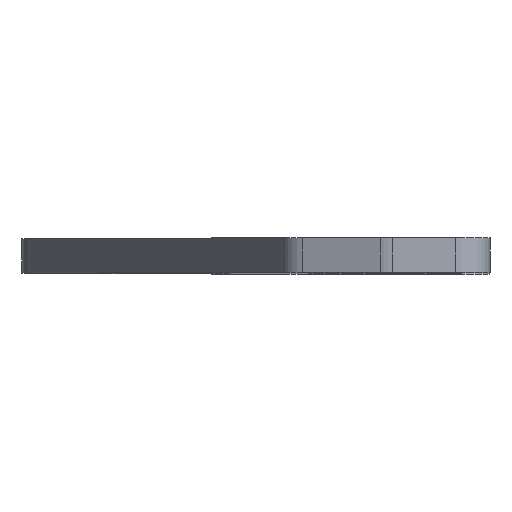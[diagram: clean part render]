
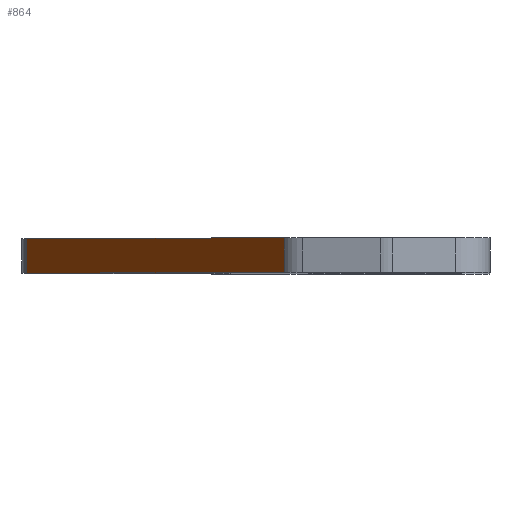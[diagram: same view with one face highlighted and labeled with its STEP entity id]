
A CAD part, top view. The second image highlights one B-rep face of the part: STEP entity #864.
In plain terms, the highlighted planar face has unit normal (-0.866, 0, 0.5).
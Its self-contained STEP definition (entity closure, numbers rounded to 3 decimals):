
#19 = ORIENTED_EDGE ( 'NONE', *, *, #160, .F. ) ;
#24 = EDGE_CURVE ( 'NONE', #344, #708, #996, .T. ) ;
#26 = VECTOR ( 'NONE', #226, 1000. ) ;
#28 = LINE ( 'NONE', #464, #561 ) ;
#34 = CARTESIAN_POINT ( 'NONE',  ( 7.636, 2., 29.368 ) ) ;
#40 = LINE ( 'NONE', #34, #525 ) ;
#43 = LINE ( 'NONE', #1066, #1008 ) ;
#48 = VERTEX_POINT ( 'NONE', #322 ) ;
#105 = DIRECTION ( 'NONE',  ( 0.5, 0., 0.866 ) ) ;
#160 = EDGE_CURVE ( 'NONE', #828, #48, #40, .T. ) ;
#196 = DIRECTION ( 'NONE',  ( 0., -1., 0. ) ) ;
#226 = DIRECTION ( 'NONE',  ( 0.5, 0., 0.866 ) ) ;
#244 = EDGE_LOOP ( 'NONE', ( #577, #754, #19, #912 ) ) ;
#322 = CARTESIAN_POINT ( 'NONE',  ( 7.636, 2., 29.368 ) ) ;
#344 = VERTEX_POINT ( 'NONE', #537 ) ;
#376 = CARTESIAN_POINT ( 'NONE',  ( 7.636, 0., 29.368 ) ) ;
#412 = PLANE ( 'NONE',  #1068 ) ;
#416 = DIRECTION ( 'NONE',  ( 0.866, 0., -0.5 ) ) ;
#464 = CARTESIAN_POINT ( 'NONE',  ( -7.232, 2., 3.615 ) ) ;
#525 = VECTOR ( 'NONE', #105, 1000. ) ;
#537 = CARTESIAN_POINT ( 'NONE',  ( -7.232, 0., 3.615 ) ) ;
#553 = DIRECTION ( 'NONE',  ( 0., -1., 0. ) ) ;
#561 = VECTOR ( 'NONE', #196, 1000. ) ;
#564 = CARTESIAN_POINT ( 'NONE',  ( 7.636, 2., 29.368 ) ) ;
#577 = ORIENTED_EDGE ( 'NONE', *, *, #24, .T. ) ;
#650 = FACE_OUTER_BOUND ( 'NONE', #244, .T. ) ;
#652 = CARTESIAN_POINT ( 'NONE',  ( -7.232, 2., 3.615 ) ) ;
#708 = VERTEX_POINT ( 'NONE', #376 ) ;
#731 = EDGE_CURVE ( 'NONE', #48, #708, #43, .T. ) ;
#742 = CARTESIAN_POINT ( 'NONE',  ( 7.636, 0., 29.368 ) ) ;
#754 = ORIENTED_EDGE ( 'NONE', *, *, #731, .F. ) ;
#828 = VERTEX_POINT ( 'NONE', #652 ) ;
#864 = ADVANCED_FACE ( 'NONE', ( #650 ), #412, .F. ) ;
#904 = DIRECTION ( 'NONE',  ( -0.5, 0., -0.866 ) ) ;
#912 = ORIENTED_EDGE ( 'NONE', *, *, #1013, .T. ) ;
#996 = LINE ( 'NONE', #742, #26 ) ;
#1008 = VECTOR ( 'NONE', #553, 1000. ) ;
#1013 = EDGE_CURVE ( 'NONE', #828, #344, #28, .T. ) ;
#1066 = CARTESIAN_POINT ( 'NONE',  ( 7.636, 2., 29.368 ) ) ;
#1068 = AXIS2_PLACEMENT_3D ( 'NONE', #564, #416, #904 ) ;
